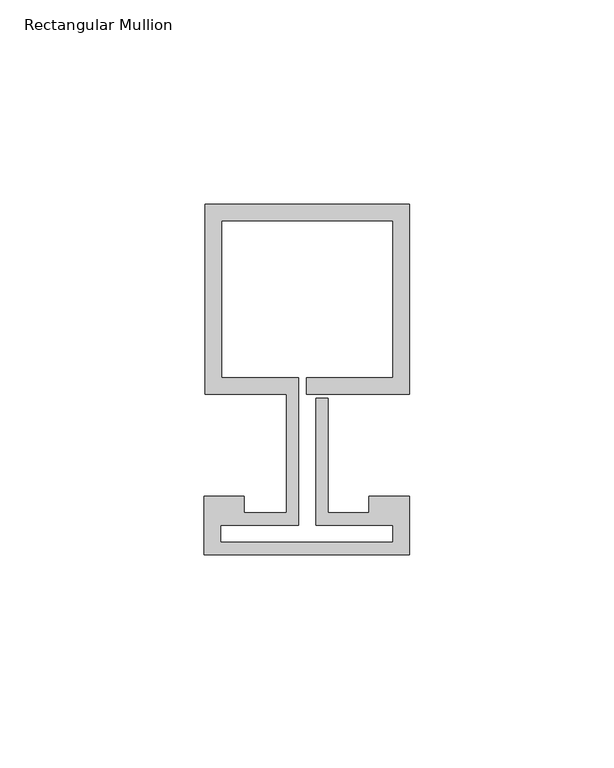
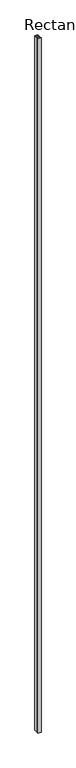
"""IFC4 building model written with IfcOpenShell, lengths in millimetres: member geometry, Rectangular Mullion : Reynaers_CW-50_Mullion-Transom_Horizontal_46.4mm_Facecap-02A."""

from ifc_helpers import new_model, si_unit, frame, origin, place, context, project, spatial, polyline, outline, extrude, source, transform, mapped, element, save


def rectangular_mullion_8414ca5e(model_context):
    return source(origin(), model_context, "Body", "SweptSolid", [
        extrude(outline(polyline([(-24.8004059, 58.9), (25.1995941, 58.9), (25.1995941, 12.5), (0.0, 12.5), (0.0, 16.5), (21.1995941, 16.5), (21.1995941, 54.9), (-20.8004059, 54.9), (-20.8004059, 16.5), (-1.9004059, 16.5), (-1.9004059, -19.5), (-20.994845, -19.5), (-20.994845, -23.7191338), (21.1995941, -23.7191338), (21.1995941, -19.5), (2.2995941, -19.5), (2.2995941, 11.5), (5.2995941, 11.5), (5.2995941, -16.5), (15.2996495, -16.5), (15.2996495, -12.5), (25.1995941, -12.5), (25.1995941, -26.8), (-24.994845, -26.8), (-24.994845, -12.5), (-15.2996495, -12.5), (-15.2996495, -16.5), (-4.9004059, -16.5), (-4.9004059, 12.5), (-24.8004059, 12.5), (-24.8004059, 58.9)])), frame((0.0, 0.0, -12000.0), z_axis=(0.0, 0.0, 1.0), x_axis=(1.0, 0.0, 0.0)), (0.0, 0.0, 1.0), 12000.0),
    ])


if __name__ == "__main__":
    model = new_model("IFC4")
    model_context = context("Model", 3, world=origin())
    ifc_project = project(units=[si_unit("LENGTHUNIT", "METRE", prefix="MILLI")], contexts=[model_context])
    site = spatial("IfcSite", under=ifc_project)
    building = spatial("IfcBuilding", under=site)
    placement = place(None, origin())
    rectangular_mullion_shape = rectangular_mullion_8414ca5e(model_context)
    element("IfcMember", 1, ObjectType="Rectangular Mullion : Reynaers_CW-50_Mullion-Transom_Horizontal_46.4mm_Facecap-02A", at=placement, inside=building, context=model_context, shape_type="MappedRepresentation", body=[
        mapped(rectangular_mullion_shape, transform((0.0, 0.0, 0.0), x_axis=(1.0, 0.0, 0.0), y_axis=(0.0, 1.0, 0.0), z_axis=(0.0, 0.0, 1.0))),
    ])
    save(model, "model.ifc")
